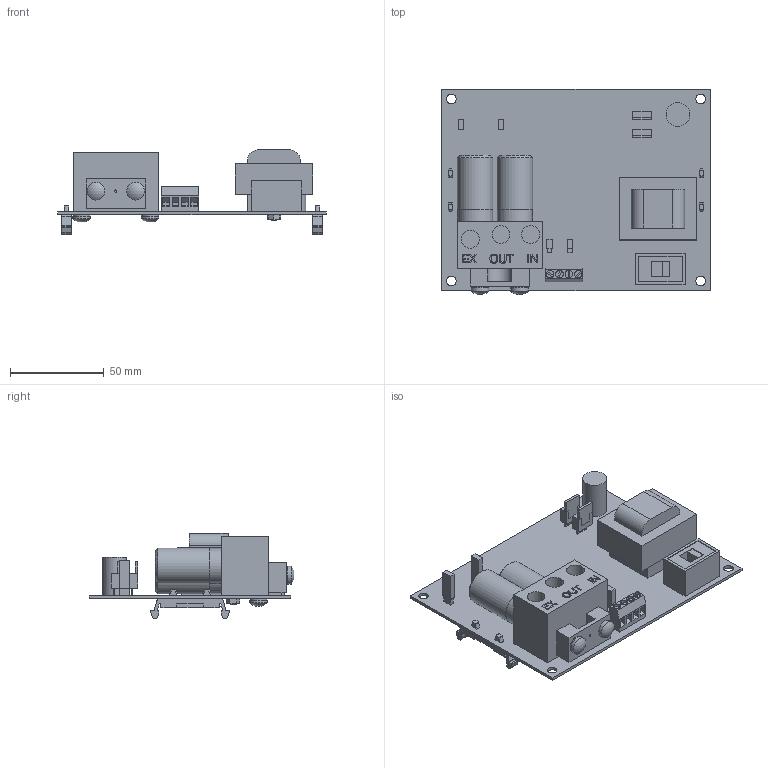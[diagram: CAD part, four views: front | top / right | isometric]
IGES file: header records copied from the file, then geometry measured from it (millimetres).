
Global section: file name: No Iges File Name specified; native system: Autodesk Inventor 2012; preprocessor: AutoDesk Inventor Iges Exporter R2012; author: lzuniga; date: 20121025.101458; units: inch
Bounding box: 143.51 x 109.65 x 45.54 mm (x, y, z)
Volume: 132673.1 mm3; surface area: 55809.5 mm2
Topology: 2 solids, 3 shells, 438 faces, 1114 edges, 741 vertices
Faces by surface type: plane 352, cylinder 32, revolution 26, bspline 14, cone 10, sphere 4
Full cylindrical faces by diameter (mm): 3.048 x2, 8.89 x1, 9.144 x2, 9.474 x2, 9.525 x2, 12.7 x1, 18.796 x2, 19.05 x2
